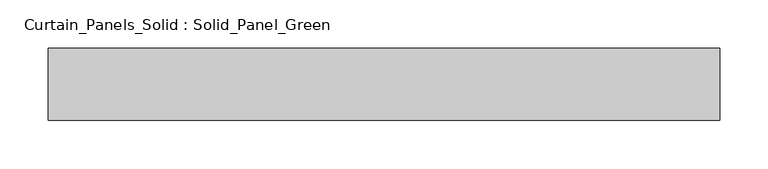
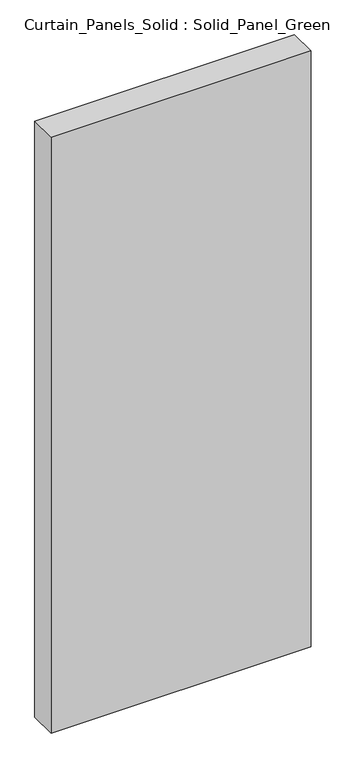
"""IFC4 building model written with IfcOpenShell, lengths in millimetres: plate geometry, Curtain_Panels_Solid : Solid_Panel_Green."""

import ifcopenshell
import ifcopenshell.guid

model = None  # the IFC model being written
_history = None  # IfcOwnerHistory: only IFC2X3 demands one
_inside = {}  # id of a spatial element -> (the spatial element, [elements in it])
_under = {}  # id of a project, library or spatial element -> (it, [spatial elements below it])
_declared = {}  # id of a project -> (the project, [libraries it declares])
_typed = {}  # id of a type object -> (the type object, [elements of that type])
_made_of = {}  # id of a material, layer set ... -> (it, [elements and type objects made of it])


def new_model(schema):
    """Start an empty IFC model of exactly this schema.

    Asked for "IFC4X3", IfcOpenShell would pick the latest addendum, in which some entities
    have other attributes; the version numbers below select the first issue.
    IFC2X3 requires an IfcOwnerHistory on every rooted entity: one is made here for all.
    """
    global model, _history
    if schema == "IFC4X3":
        model = ifcopenshell.file(schema_version=(4, 3, 0, 0))
    else:
        model = ifcopenshell.file(schema=schema)
    _inside.clear()
    _under.clear()
    _declared.clear()
    _typed.clear()
    _made_of.clear()
    _history = None
    if model.schema == "IFC2X3":
        org = make("IfcOrganization", Name="unknown")
        user = make(
            "IfcPersonAndOrganization",
            ThePerson=make("IfcPerson", FamilyName="unknown"),
            TheOrganization=org,
        )
        app = make(
            "IfcApplication",
            ApplicationDeveloper=org,
            Version="unknown",
            ApplicationFullName="unknown",
            ApplicationIdentifier="unknown",
        )
        _history = make(
            "IfcOwnerHistory",
            OwningUser=user,
            OwningApplication=app,
            ChangeAction="ADDED",
            CreationDate=0,
        )
    return model


def make(cls, **values):
    """One entity of the class cls with the attributes given. An attribute that is None is left unset."""
    return model.create_entity(
        cls, **{name: value for name, value in values.items() if value is not None}
    )


def rooted(cls, **values):
    """An entity with a GlobalId (a new one), such as an element, a storey or a relation."""
    return make(cls, GlobalId=ifcopenshell.guid.new(), OwnerHistory=_history, **values)


def si_unit(unit_type, name, prefix=None):
    """IfcSIUnit, for example si_unit("LENGTHUNIT", "METRE", prefix="MILLI")."""
    return make("IfcSIUnit", UnitType=unit_type, Prefix=prefix, Name=name)


def assignment(units):
    """IfcUnitAssignment: the units of a project."""
    return None if units is None else make("IfcUnitAssignment", Units=units)


def point(xyz):
    """IfcCartesianPoint."""
    return None if xyz is None else make("IfcCartesianPoint", Coordinates=xyz)


def direction(xyz):
    """IfcDirection."""
    return None if xyz is None else make("IfcDirection", DirectionRatios=xyz)


def frame(location, z_axis=None, x_axis=None):
    """IfcAxis2Placement3D, a coordinate frame: its origin and axes. An axis left out is left unset."""
    return make(
        "IfcAxis2Placement3D",
        Location=point(location),
        Axis=direction(z_axis),
        RefDirection=direction(x_axis),
    )


def origin():
    """The frame at (0, 0, 0) with its axes left unset."""
    return frame((0.0, 0.0, 0.0))


def origin_with_axes():
    """The frame at (0, 0, 0) with the z axis (0, 0, 1) and the x axis (1, 0, 0) written out."""
    return frame((0.0, 0.0, 0.0), z_axis=(0.0, 0.0, 1.0), x_axis=(1.0, 0.0, 0.0))


def place(relative_to, where):
    """IfcLocalPlacement: puts the frame where relative to a parent placement (None: the world)."""
    return make(
        "IfcLocalPlacement", PlacementRelTo=relative_to, RelativePlacement=where
    )


def context(
    kind, dimensions, precision=None, world=None, true_north=None, identifier=None
):
    """IfcGeometricRepresentationContext, for example the 3D "Model" context."""
    return make(
        "IfcGeometricRepresentationContext",
        ContextIdentifier=identifier,
        ContextType=kind,
        CoordinateSpaceDimension=dimensions,
        Precision=precision,
        WorldCoordinateSystem=world,
        TrueNorth=true_north,
    )


def project(units=None, contexts=None):
    """IfcProject with its units and contexts."""
    return rooted(
        "IfcProject",
        Name="project",
        RepresentationContexts=contexts,
        UnitsInContext=assignment(units),
    )


def spatial(cls, under=None, at=None, **own):
    """A site, building, storey or space (cls), placed at a placement, below another one or the project."""
    s = rooted(cls, ObjectPlacement=at, **own)
    if under is not None:
        _under.setdefault(under.id(), (under, []))[1].append(s)
    return s


def polyline(points):
    """IfcPolyline through the points."""
    return make("IfcPolyline", Points=[point(p) for p in points])


def outline(outer, holes=None, kind="AREA"):
    """IfcArbitraryClosedProfileDef: a profile drawn as a closed curve; with holes, ...WithVoids."""
    if holes is None:
        return make("IfcArbitraryClosedProfileDef", ProfileType=kind, OuterCurve=outer)
    return make(
        "IfcArbitraryProfileDefWithVoids",
        ProfileType=kind,
        OuterCurve=outer,
        InnerCurves=holes,
    )


def extrude(swept, where, along, depth):
    """IfcExtrudedAreaSolid: the profile swept, set in the frame where, extruded along a direction by depth."""
    return make(
        "IfcExtrudedAreaSolid",
        SweptArea=swept,
        Position=where,
        ExtrudedDirection=direction(along),
        Depth=depth,
    )


def shape(context_of_items, identifier, shape_type, items):
    """IfcShapeRepresentation: the items that make up one representation, for example the "Body"."""
    return make(
        "IfcShapeRepresentation",
        ContextOfItems=context_of_items,
        RepresentationIdentifier=identifier,
        RepresentationType=shape_type,
        Items=items,
    )


def source(mapping_origin, context_of_items, identifier, shape_type, items):
    """IfcRepresentationMap: a shape defined once, which mapped items show again and again."""
    return make(
        "IfcRepresentationMap",
        MappingOrigin=mapping_origin,
        MappedRepresentation=shape(context_of_items, identifier, shape_type, items),
    )


def transform(
    local_origin,
    x_axis=None,
    y_axis=None,
    z_axis=None,
    scale=None,
    scale2=None,
    scale3=None,
    uniform=True,
):
    """IfcCartesianTransformationOperator3D, or its non-uniform kind. x_axis, y_axis, z_axis: its Axis1, 2, 3."""
    if uniform:
        return make(
            "IfcCartesianTransformationOperator3D",
            Axis1=direction(x_axis),
            Axis2=direction(y_axis),
            LocalOrigin=point(local_origin),
            Scale=scale,
            Axis3=direction(z_axis),
        )
    return make(
        "IfcCartesianTransformationOperator3DnonUniform",
        Axis1=direction(x_axis),
        Axis2=direction(y_axis),
        LocalOrigin=point(local_origin),
        Scale=scale,
        Axis3=direction(z_axis),
        Scale2=scale2,
        Scale3=scale3,
    )


def mapped(mapping_source, mapping_target):
    """IfcMappedItem: shows the shape of a source again, moved by a transform."""
    return make(
        "IfcMappedItem", MappingSource=mapping_source, MappingTarget=mapping_target
    )


def made_of(thing, what):
    """Note that an element or type object is made of a material, layer set ...; save() writes the relation."""
    if what is not None:
        _made_of.setdefault(what.id(), (what, []))[1].append(thing)
    return thing


def element(
    cls,
    number,
    at=None,
    inside=None,
    cuts=None,
    type_object=None,
    material=None,
    context=None,
    identifier="Body",
    shape_type=None,
    held_by="IfcProductDefinitionShape",
    body=None,
    shapes=None,
    **own,
):
    """One element of the class cls, such as IfcWall. Its Tag is "e" and its number.

    at: its placement. inside: the storey or other place that contains it. cuts: it is an
    opening in that element (IfcRelVoidsElement). A single representation is given by context,
    identifier, shape_type and body (its items); several are given by shapes. held_by: the class
    of the entity that holds the representations. save() writes the other relations.
    """
    e = rooted(cls, Tag="e%d" % number, ObjectPlacement=at, **own)
    if body is not None:
        shapes = [shape(context, identifier, shape_type, body)]
    if shapes is not None:
        e.Representation = make(held_by, Representations=shapes)
    if inside is not None:
        _inside.setdefault(inside.id(), (inside, []))[1].append(e)
    if cuts is not None:
        rooted(
            "IfcRelVoidsElement", RelatingBuildingElement=cuts, RelatedOpeningElement=e
        )
    if type_object is not None:
        _typed.setdefault(type_object.id(), (type_object, []))[1].append(e)
    return made_of(e, material)


def aggregate(whole, parts):
    """IfcRelAggregates: a whole, such as a stair, and the parts it consists of."""
    return rooted("IfcRelAggregates", RelatingObject=whole, RelatedObjects=parts)


def save(model, path):
    """Write the relations noted so far, then the file.

    IfcRelAggregates (storeys below a building ...), IfcRelContainedInSpatialStructure (elements
    in a storey), IfcRelDefinesByType, IfcRelAssociatesMaterial and IfcRelDeclares: one each for
    every whole, place, type object, material and project.
    """
    for whole, parts in _under.values():
        aggregate(whole, parts)
    for where, things in _inside.values():
        rooted(
            "IfcRelContainedInSpatialStructure",
            RelatedElements=things,
            RelatingStructure=where,
        )
    for kind, things in _typed.values():
        rooted("IfcRelDefinesByType", RelatedObjects=things, RelatingType=kind)
    for what, things in _made_of.values():
        rooted("IfcRelAssociatesMaterial", RelatedObjects=things, RelatingMaterial=what)
    for by, libraries in _declared.values():
        rooted("IfcRelDeclares", RelatingContext=by, RelatedDefinitions=libraries)
    model.write(path)


def curtain_panels_solid_solid_panel_green_db50b24e(model_context):
    return source(origin(), model_context, "Body", "SweptSolid", [
        extrude(outline(polyline([(348.7500001, 25.0), (348.7500001, -50.0), (-348.7500001, -50.0), (-348.7500001, 25.0), (348.7500001, 25.0)])), origin_with_axes(), (0.0, 0.0, 1.0), 1690.0),
    ])


if __name__ == "__main__":
    model = new_model("IFC4")
    model_context = context("Model", 3, world=origin())
    ifc_project = project(units=[si_unit("LENGTHUNIT", "METRE", prefix="MILLI")], contexts=[model_context])
    site = spatial("IfcSite", under=ifc_project)
    building = spatial("IfcBuilding", under=site)
    placement = place(None, origin())
    curtain_panels_solid_solid_panel_green_shape = curtain_panels_solid_solid_panel_green_db50b24e(model_context)
    element("IfcPlate", 1, ObjectType="Curtain_Panels_Solid : Solid_Panel_Green", at=placement, inside=building, context=model_context, shape_type="MappedRepresentation", body=[
        mapped(curtain_panels_solid_solid_panel_green_shape, transform((0.0, 0.0, 0.0), x_axis=(1.0, 0.0, 0.0), y_axis=(0.0, 1.0, 0.0), z_axis=(0.0, 0.0, 1.0))),
    ])
    save(model, "model.ifc")
